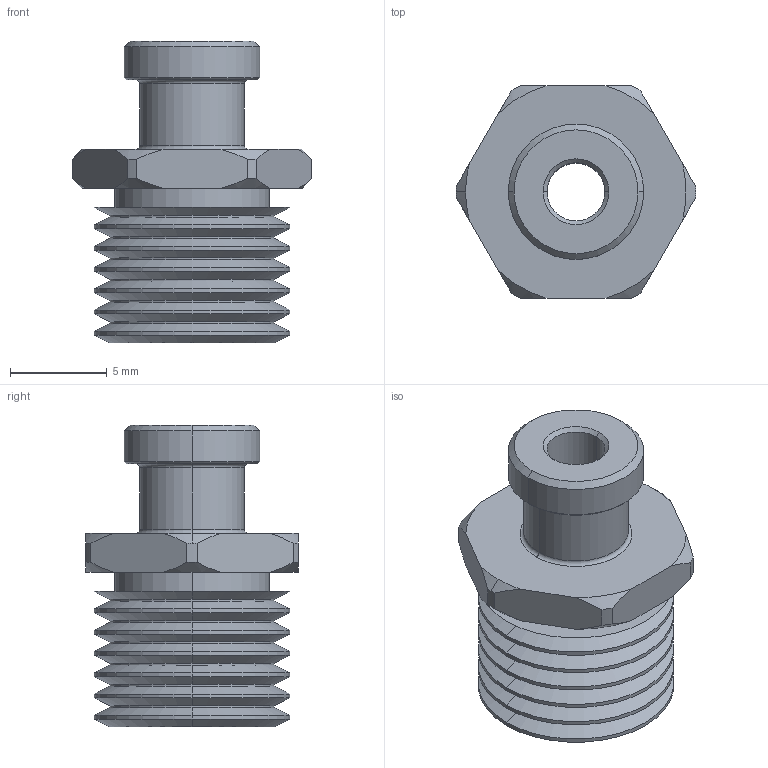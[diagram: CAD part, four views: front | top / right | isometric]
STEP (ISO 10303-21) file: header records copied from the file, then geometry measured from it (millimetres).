
FILE_DESCRIPTION (( 'STEP AP214' ), '1' );
FILE_NAME ('VM11-G18.STEP', '2021-03-06T05:08:58', ( '微软用户' ), ( '微软中国' ), 'SwSTEP 2.0', 'SolidWorks 2018', '' );
FILE_SCHEMA (( 'AUTOMOTIVE_DESIGN' ));
Length unit declared in the file: millimetre
Products named in the file (1): VM11-G18
Bounding box: 12.4 x 11 x 15.6 mm (x, y, z)
Volume: 789.8 mm3; surface area: 991.8 mm2
Topology: 1 solids, 1 shells, 103 faces, 230 edges, 133 vertices
Faces by surface type: cone 48, cylinder 39, plane 12, torus 4
Entity records: 2891 total; most frequent: CARTESIAN_POINT 539, DIRECTION 527, ORIENTED_EDGE 460, EDGE_CURVE 230, AXIS2_PLACEMENT_3D 217, VERTEX_POINT 133, CIRCLE 113, EDGE_LOOP 109
